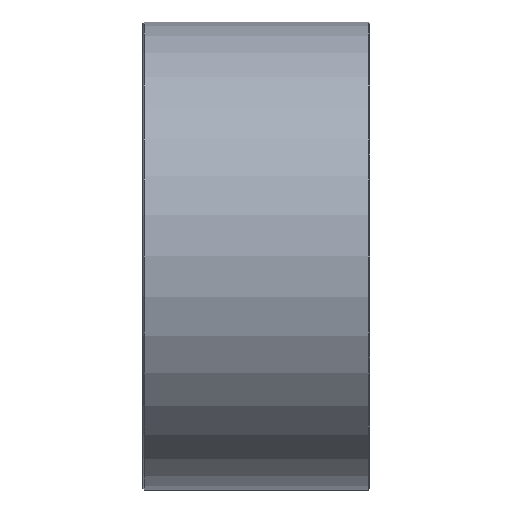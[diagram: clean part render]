
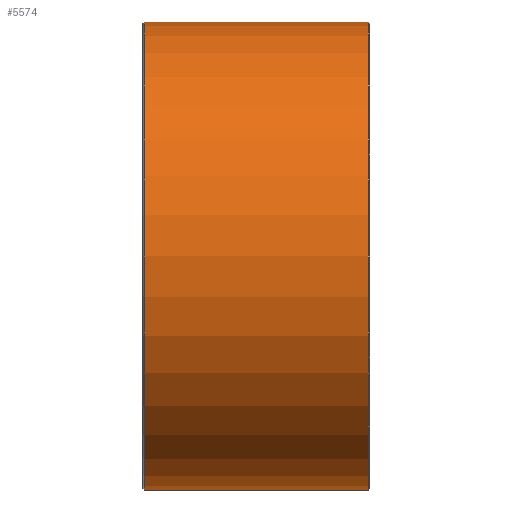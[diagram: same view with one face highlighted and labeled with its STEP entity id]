
A CAD part, left-side view. The second image highlights one B-rep face of the part: STEP entity #5574.
In plain terms, the highlighted cylindrical face has radius 82.5 mm (diameter 165 mm), a full revolution.
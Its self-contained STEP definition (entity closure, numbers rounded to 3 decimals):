
#3607=CYLINDRICAL_SURFACE('',#16329,82.5);
#4267=FACE_BOUND('',#7462,.T.);
#4268=FACE_BOUND('',#7463,.T.);
#4269=FACE_BOUND('',#7464,.T.);
#4889=CIRCLE('',#16322,82.5);
#4891=CIRCLE('',#16325,82.5);
#4892=CIRCLE('',#16327,82.5);
#4893=CIRCLE('',#16328,82.5);
#5574=ADVANCED_FACE('',(#4267,#4268,#4269),#3607,.T.);
#7462=EDGE_LOOP('',(#9727,#9728,#9729,#9730));
#7463=EDGE_LOOP('',(#9731));
#7464=EDGE_LOOP('',(#9732));
#9727=ORIENTED_EDGE('',*,*,#13138,.F.);
#9728=ORIENTED_EDGE('',*,*,#13135,.F.);
#9729=ORIENTED_EDGE('',*,*,#13141,.F.);
#9730=ORIENTED_EDGE('',*,*,#13133,.F.);
#9731=ORIENTED_EDGE('',*,*,#13142,.T.);
#9732=ORIENTED_EDGE('',*,*,#13140,.F.);
#11744=VERTEX_POINT('',#23724);
#11745=VERTEX_POINT('',#23726);
#11746=VERTEX_POINT('',#23728);
#11747=VERTEX_POINT('',#23730);
#11748=VERTEX_POINT('',#23738);
#11749=VERTEX_POINT('',#23742);
#13133=EDGE_CURVE('',#11744,#11745,#14209,.T.);
#13135=EDGE_CURVE('',#11746,#11747,#14211,.T.);
#13138=EDGE_CURVE('',#11747,#11744,#4889,.T.);
#13140=EDGE_CURVE('',#11748,#11748,#4891,.T.);
#13141=EDGE_CURVE('',#11745,#11746,#4892,.T.);
#13142=EDGE_CURVE('',#11749,#11749,#4893,.T.);
#14209=LINE('',#23725,#15065);
#14211=LINE('',#23729,#15067);
#15065=VECTOR('',#19003,1.);
#15067=VECTOR('',#19005,1.);
#16322=AXIS2_PLACEMENT_3D('',#23734,#19011,#19012);
#16325=AXIS2_PLACEMENT_3D('',#23737,#19017,#19018);
#16327=AXIS2_PLACEMENT_3D('',#23740,#19021,#19022);
#16328=AXIS2_PLACEMENT_3D('',#23741,#19023,#19024);
#16329=AXIS2_PLACEMENT_3D('',#23743,#19025,#19026);
#19003=DIRECTION('',(-1.,0.,0.));
#19005=DIRECTION('',(1.,0.,0.));
#19011=DIRECTION('',(-1.,0.,0.));
#19012=DIRECTION('',(0.,0.,-1.));
#19017=DIRECTION('',(-1.,0.,0.));
#19018=DIRECTION('',(0.,0.,1.));
#19021=DIRECTION('',(1.,0.,0.));
#19022=DIRECTION('',(0.,0.,1.));
#19023=DIRECTION('',(-1.,0.,0.));
#19024=DIRECTION('',(0.,0.,1.));
#19025=DIRECTION('',(-1.,0.,0.));
#19026=DIRECTION('',(0.,0.,1.));
#23724=CARTESIAN_POINT('',(68.038,70.,-43.661));
#23725=CARTESIAN_POINT('',(0.,70.,-43.661));
#23726=CARTESIAN_POINT('',(31.963,70.,-43.661));
#23728=CARTESIAN_POINT('',(31.963,70.,43.661));
#23729=CARTESIAN_POINT('',(0.,70.,43.661));
#23730=CARTESIAN_POINT('',(68.038,70.,43.661));
#23734=CARTESIAN_POINT('',(68.038,0.,0.));
#23737=CARTESIAN_POINT('',(0.5,0.,0.));
#23738=CARTESIAN_POINT('',(0.5,0.,82.5));
#23740=CARTESIAN_POINT('',(31.963,0.,0.));
#23741=CARTESIAN_POINT('',(79.5,0.,0.));
#23742=CARTESIAN_POINT('',(79.5,0.,82.5));
#23743=CARTESIAN_POINT('',(0.,0.,0.));
